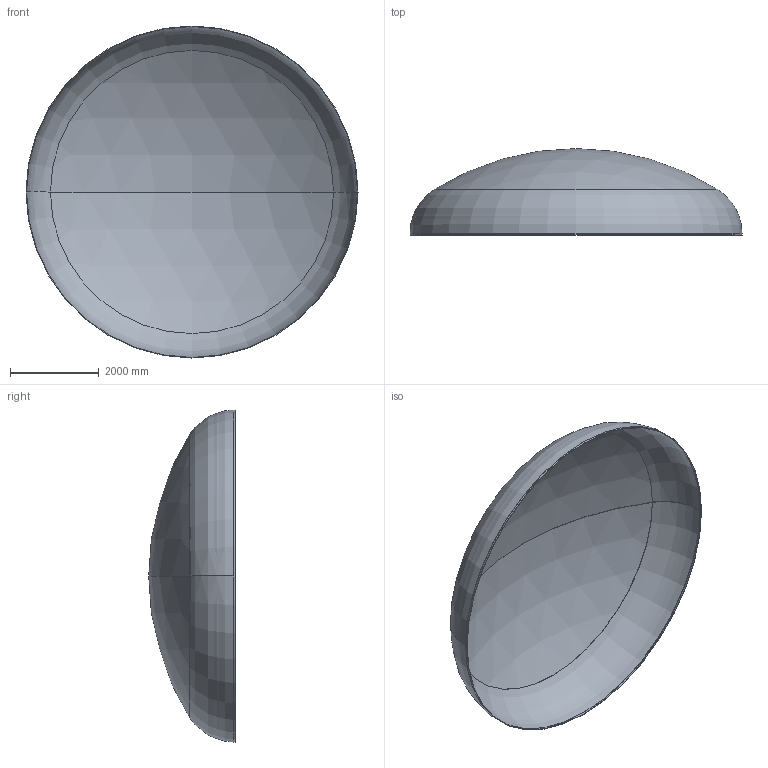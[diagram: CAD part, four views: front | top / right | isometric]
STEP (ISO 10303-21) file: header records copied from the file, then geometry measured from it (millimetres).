
FILE_DESCRIPTION (( 'STEP AP203' ), '1' );
FILE_NAME ('DIN 28013 Korbbogenform_-_Boden DIN 28013 - 7500 x 40 - I - s=12.step', '2016-07-04T10:51:24', ( '' ), ( '' ), 'SwSTEP 2.0', 'SolidWorks 2013', '' );
FILE_SCHEMA (( 'CONFIG_CONTROL_DESIGN' ));
Length unit declared in the file: millimetre
Products named in the file (1): DIN 28013 Korbbogenform_-_Boden DIN 28013 - 7500 x 40 - I - s=12
Bounding box: 7500 x 1952.96 x 7500 mm (x, y, z)
Volume: 744055474.4 mm3; surface area: 124291786.8 mm2
Topology: 1 solids, 1 shells, 13 faces, 24 edges, 14 vertices
Faces by surface type: torus 4, cylinder 4, sphere 4, plane 1
Entity records: 407 total; most frequent: DIRECTION 72, CARTESIAN_POINT 52, ORIENTED_EDGE 48, AXIS2_PLACEMENT_3D 34, EDGE_CURVE 24, CIRCLE 20, VERTEX_POINT 14, EDGE_LOOP 14
